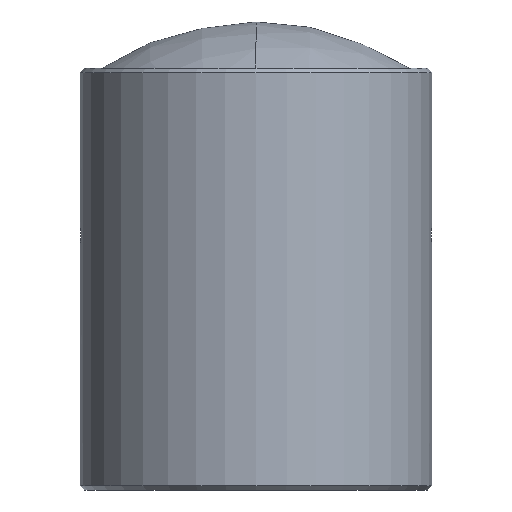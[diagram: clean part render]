
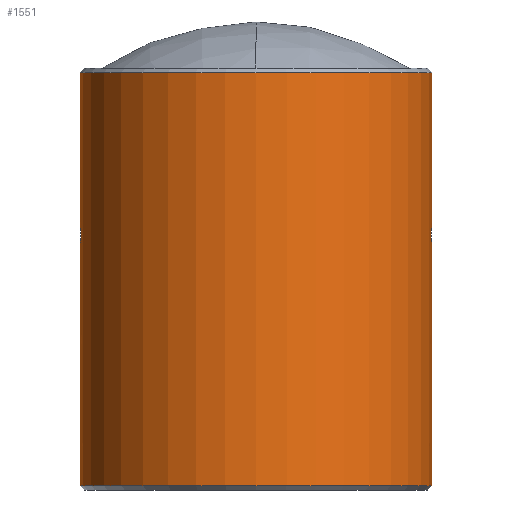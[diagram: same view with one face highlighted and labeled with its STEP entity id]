
A CAD part, front view. The second image highlights one B-rep face of the part: STEP entity #1551.
In plain terms, the highlighted cylindrical face has radius 4 mm (diameter 8 mm), a partial arc.
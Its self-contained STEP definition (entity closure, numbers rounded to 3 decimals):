
#23 = CARTESIAN_POINT ( 'NONE',  ( -3.992, -0.25, 5.869 ) ) ;
#25 = VECTOR ( 'NONE', #719, 1000. ) ;
#81 = VECTOR ( 'NONE', #1329, 1000. ) ;
#87 = DIRECTION ( 'NONE',  ( 0., 0., -1. ) ) ;
#100 = CARTESIAN_POINT ( 'NONE',  ( -4., 0., 6.05 ) ) ;
#124 = DIRECTION ( 'NONE',  ( 1., 0., 0. ) ) ;
#131 = VERTEX_POINT ( 'NONE', #1176 ) ;
#135 = CARTESIAN_POINT ( 'NONE',  ( 4., 0., 9.6 ) ) ;
#165 = CARTESIAN_POINT ( 'NONE',  ( -3.994, -0.226, 5.672 ) ) ;
#177 = ORIENTED_EDGE ( 'NONE', *, *, #1686, .T. ) ;
#193 = EDGE_CURVE ( 'NONE', #1598, #714, #1068, .T. ) ;
#248 = CARTESIAN_POINT ( 'NONE',  ( 4., 0., 5.55 ) ) ;
#255 = CARTESIAN_POINT ( 'NONE',  ( 4., 0., 5.55 ) ) ;
#256 = EDGE_CURVE ( 'NONE', #1503, #714, #1190, .T. ) ;
#260 = CARTESIAN_POINT ( 'NONE',  ( 3.992, -0.25, 5.869 ) ) ;
#293 = CIRCLE ( 'NONE', #1425, 4. ) ;
#304 = CARTESIAN_POINT ( 'NONE',  ( -4., 0., 9.6 ) ) ;
#319 = CARTESIAN_POINT ( 'NONE',  ( -4., 0., 9.5 ) ) ;
#327 = CARTESIAN_POINT ( 'NONE',  ( -4., 0., 9.6 ) ) ;
#338 = FACE_OUTER_BOUND ( 'NONE', #1280, .T. ) ;
#347 = CARTESIAN_POINT ( 'NONE',  ( 4., 0., 9.5 ) ) ;
#389 = CARTESIAN_POINT ( 'NONE',  ( 4., -0.069, 5.55 ) ) ;
#391 = EDGE_CURVE ( 'NONE', #1503, #1219, #293, .T. ) ;
#393 = CARTESIAN_POINT ( 'NONE',  ( 3.998, -0.128, 5.574 ) ) ;
#415 = ORIENTED_EDGE ( 'NONE', *, *, #468, .F. ) ;
#432 = CARTESIAN_POINT ( 'NONE',  ( -4., -0.069, 6.05 ) ) ;
#443 = CARTESIAN_POINT ( 'NONE',  ( -4., 0., 5.55 ) ) ;
#453 = DIRECTION ( 'NONE',  ( 0., 0., -1. ) ) ;
#456 = ORIENTED_EDGE ( 'NONE', *, *, #391, .T. ) ;
#468 = EDGE_CURVE ( 'NONE', #1598, #693, #928, .T. ) ;
#498 = ORIENTED_EDGE ( 'NONE', *, *, #256, .F. ) ;
#504 = EDGE_CURVE ( 'NONE', #1577, #654, #1029, .T. ) ;
#531 = CARTESIAN_POINT ( 'NONE',  ( 4., -0.069, 6.05 ) ) ;
#573 = LINE ( 'NONE', #327, #25 ) ;
#575 = CARTESIAN_POINT ( 'NONE',  ( -3.992, -0.25, 5.731 ) ) ;
#579 = DIRECTION ( 'NONE',  ( 1., 0., 0. ) ) ;
#581 = CARTESIAN_POINT ( 'NONE',  ( -4., -0.069, 5.55 ) ) ;
#633 = ORIENTED_EDGE ( 'NONE', *, *, #193, .T. ) ;
#654 = VERTEX_POINT ( 'NONE', #981 ) ;
#693 = VERTEX_POINT ( 'NONE', #1359 ) ;
#714 = VERTEX_POINT ( 'NONE', #1104 ) ;
#719 = DIRECTION ( 'NONE',  ( 0., 0., -1. ) ) ;
#768 = EDGE_CURVE ( 'NONE', #131, #693, #1180, .T. ) ;
#789 = CARTESIAN_POINT ( 'NONE',  ( 3.992, -0.25, 5.731 ) ) ;
#822 = CARTESIAN_POINT ( 'NONE',  ( -4., 0., 6.05 ) ) ;
#827 = DIRECTION ( 'NONE',  ( 0., 0., -1. ) ) ;
#835 = VECTOR ( 'NONE', #453, 1000. ) ;
#864 = ORIENTED_EDGE ( 'NONE', *, *, #504, .T. ) ;
#880 = CARTESIAN_POINT ( 'NONE',  ( 0., 0., 9.6 ) ) ;
#928 = LINE ( 'NONE', #135, #81 ) ;
#940 = CARTESIAN_POINT ( 'NONE',  ( 4., 0., 6.05 ) ) ;
#981 = CARTESIAN_POINT ( 'NONE',  ( -4., 0., 5.55 ) ) ;
#999 = ORIENTED_EDGE ( 'NONE', *, *, #768, .T. ) ;
#1024 = CYLINDRICAL_SURFACE ( 'NONE', #1193, 4. ) ;
#1029 = B_SPLINE_CURVE_WITH_KNOTS ( 'NONE', 3,
 ( #822, #432, #1084, #1483, #23, #575, #165, #1350, #581, #443 ),
 .UNSPECIFIED., .F., .F.,
 ( 4, 2, 2, 2, 4 ),
 ( 0., 0.25, 0.5, 0.75, 1. ),
 .UNSPECIFIED. ) ;
#1063 = CARTESIAN_POINT ( 'NONE',  ( 3.994, -0.226, 5.672 ) ) ;
#1068 = B_SPLINE_CURVE_WITH_KNOTS ( 'NONE', 3,
 ( #248, #389, #393, #1063, #789, #260, #1721, #1308, #531, #940 ),
 .UNSPECIFIED., .F., .F.,
 ( 4, 2, 2, 2, 4 ),
 ( 0., 0.25, 0.5, 0.75, 1. ),
 .UNSPECIFIED. ) ;
#1084 = CARTESIAN_POINT ( 'NONE',  ( -3.998, -0.128, 6.026 ) ) ;
#1086 = ORIENTED_EDGE ( 'NONE', *, *, #1239, .T. ) ;
#1104 = CARTESIAN_POINT ( 'NONE',  ( 4., 0., 6.05 ) ) ;
#1140 = AXIS2_PLACEMENT_3D ( 'NONE', #1347, #1607, #579 ) ;
#1166 = DIRECTION ( 'NONE',  ( -1., 0., 0. ) ) ;
#1176 = CARTESIAN_POINT ( 'NONE',  ( -4., 0., 0.1 ) ) ;
#1180 = CIRCLE ( 'NONE', #1140, 4. ) ;
#1184 = DIRECTION ( 'NONE',  ( 0., 0., -1. ) ) ;
#1190 = LINE ( 'NONE', #1365, #835 ) ;
#1193 = AXIS2_PLACEMENT_3D ( 'NONE', #880, #87, #1166 ) ;
#1219 = VERTEX_POINT ( 'NONE', #319 ) ;
#1239 = EDGE_CURVE ( 'NONE', #1219, #1577, #573, .T. ) ;
#1247 = LINE ( 'NONE', #304, #1684 ) ;
#1280 = EDGE_LOOP ( 'NONE', ( #498, #456, #1086, #864, #177, #999, #415, #633 ) ) ;
#1308 = CARTESIAN_POINT ( 'NONE',  ( 3.998, -0.128, 6.026 ) ) ;
#1329 = DIRECTION ( 'NONE',  ( 0., 0., -1. ) ) ;
#1347 = CARTESIAN_POINT ( 'NONE',  ( 0., 0., 0.1 ) ) ;
#1350 = CARTESIAN_POINT ( 'NONE',  ( -3.998, -0.128, 5.574 ) ) ;
#1359 = CARTESIAN_POINT ( 'NONE',  ( 4., 0., 0.1 ) ) ;
#1365 = CARTESIAN_POINT ( 'NONE',  ( 4., 0., 9.6 ) ) ;
#1425 = AXIS2_PLACEMENT_3D ( 'NONE', #1575, #1184, #124 ) ;
#1483 = CARTESIAN_POINT ( 'NONE',  ( -3.994, -0.226, 5.928 ) ) ;
#1503 = VERTEX_POINT ( 'NONE', #347 ) ;
#1551 = ADVANCED_FACE ( 'NONE', ( #338 ), #1024, .T. ) ;
#1575 = CARTESIAN_POINT ( 'NONE',  ( 0., 0., 9.5 ) ) ;
#1577 = VERTEX_POINT ( 'NONE', #100 ) ;
#1598 = VERTEX_POINT ( 'NONE', #255 ) ;
#1607 = DIRECTION ( 'NONE',  ( 0., 0., 1. ) ) ;
#1684 = VECTOR ( 'NONE', #827, 1000. ) ;
#1686 = EDGE_CURVE ( 'NONE', #654, #131, #1247, .T. ) ;
#1721 = CARTESIAN_POINT ( 'NONE',  ( 3.994, -0.226, 5.928 ) ) ;
